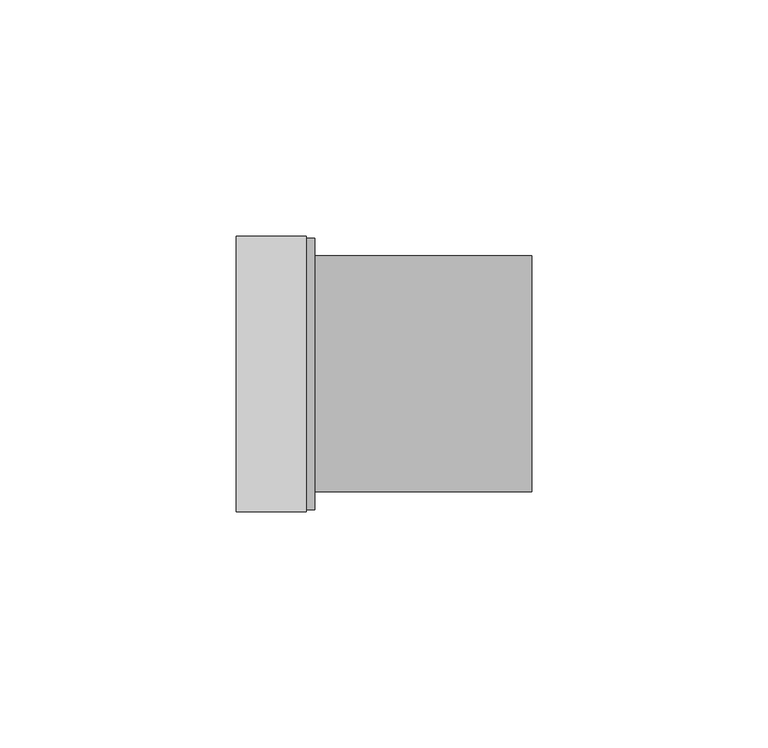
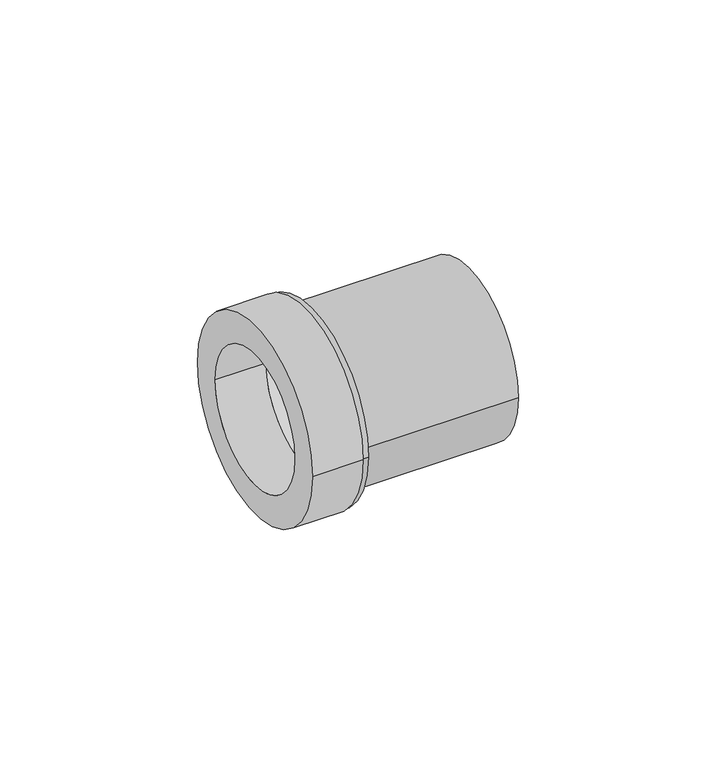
"""IFC4 building model written with IfcOpenShell, lengths in millimetres: pipe fitting geometry, UN_PIF_PP insert reducer_SH_PipeLife : Black, var. DN/OD (max. ø125, nested)."""

from ifc_helpers import new_model, si_unit, point, frame, origin, origin_2d, place, context, project, spatial, polyline, circle_curve, trimmed, segment, composite_curve, outline, extrude, source, transform, mapped, element, save
from ifc_brep_helpers import plane_surface, cylinder_surface, revolved_surface, advanced_brep


def pipe_fitting_761963bc(model_context):
    return source(origin(), model_context, "Body", "SolidModel", [
        extrude(outline(composite_curve([segment(trimmed(circle_curve(origin_2d(), 29.15), [point((-29.15, 0.0))], [point((29.15, 0.0))], False, "CARTESIAN"), True, "CONTINUOUS"), segment(trimmed(circle_curve(origin_2d(), 29.15), [point((29.15, 0.0))], [point((-29.15, 0.0))], False, "CARTESIAN"), True, "CONTINUOUS")], self_intersect=False), holes=[composite_curve([segment(trimmed(circle_curve(origin_2d(), 20.15), [point((-20.15, 0.0))], [point((20.15, 0.0))], True, "CARTESIAN"), True, "CONTINUOUS"), segment(trimmed(circle_curve(origin_2d(), 20.15), [point((20.15, 0.0))], [point((-20.15, 0.0))], True, "CARTESIAN"), True, "CONTINUOUS")], self_intersect=False)]), frame((-16.6, 0.0, 0.0), z_axis=(1.0, 0.0, 0.0), x_axis=(0.0, 1.0, 0.0)), (0.0, 0.0, 1.0), 14.8),
        advanced_brep(
        [(0.0, -28.75, 0.0), (0.0, 28.75, 0.0), (0.0, 25.0, 0.0), (0.0, -25.0, 0.0), (-1.8, -28.75, 0.0), (-1.8, 28.75, 0.0), (-1.8, -20.15, 0.0), (-1.8, 20.15, 0.0), (46.0, -25.0, 0.0), (46.0, 25.0, 0.0), (46.0, 0.0, 0.0), (20.5, -20.15, 0.0), (20.5, 20.15, 0.0)],
        [
            (0, 1, circle_curve(frame((0.0, 0.0, 0.0), z_axis=(1.0, 0.0, 0.0), x_axis=(0.0, 1.0, 0.0)), 28.75)),
            (1, 2),
            (2, 3, circle_curve(frame((0.0, 0.0, 0.0), z_axis=(-1.0, 0.0, 0.0), x_axis=(0.0, 1.0, 0.0)), 25.0)),
            (3, 0),
            (1, 0, circle_curve(frame((0.0, 0.0, 0.0), z_axis=(1.0, 0.0, 0.0), x_axis=(0.0, 1.0, 0.0)), 28.75)),
            (3, 2, circle_curve(frame((0.0, 0.0, 0.0), z_axis=(-1.0, 0.0, 0.0), x_axis=(0.0, 1.0, 0.0)), 25.0)),
            (0, 4),
            (4, 5, circle_curve(frame((-1.8, 0.0, 0.0), z_axis=(1.0, 0.0, 0.0), x_axis=(0.0, 1.0, 0.0)), 28.75)),
            (5, 1),
            (5, 4, circle_curve(frame((-1.8, 0.0, 0.0), z_axis=(1.0, 0.0, 0.0), x_axis=(0.0, 1.0, 0.0)), 28.75)),
            (4, 6),
            (6, 7, circle_curve(frame((-1.8, 0.0, 0.0), z_axis=(1.0, 0.0, 0.0), x_axis=(0.0, 1.0, 0.0)), 20.15)),
            (7, 5),
            (7, 6, circle_curve(frame((-1.8, 0.0, 0.0), z_axis=(1.0, 0.0, 0.0), x_axis=(0.0, 1.0, 0.0)), 20.15)),
            (8, 9, circle_curve(frame((46.0, 0.0, 0.0), z_axis=(1.0, 0.0, 0.0), x_axis=(0.0, 1.0, 0.0)), 25.0)),
            (9, 10),
            (10, 8),
            (9, 8, circle_curve(frame((46.0, 0.0, 0.0), z_axis=(1.0, 0.0, 0.0), x_axis=(0.0, 1.0, 0.0)), 25.0)),
            (2, 9),
            (8, 3),
            (11, 12, circle_curve(frame((20.5, 0.0, 0.0), z_axis=(-1.0, 0.0, 0.0), x_axis=(0.0, 1.0, 0.0)), 20.15)),
            (12, 11, circle_curve(frame((20.5, 0.0, 0.0), z_axis=(-1.0, 0.0, 0.0), x_axis=(0.0, 1.0, 0.0)), 20.15)),
            (12, 7),
            (6, 11),
        ],
        [
            plane_surface(frame((0.0, 0.0, 0.0), z_axis=(1.0, 0.0, 0.0), x_axis=(0.0, 1.0, 0.0))),
            cylinder_surface(frame((46.0, 0.0, 0.0), z_axis=(-1.0, 0.0, 0.0), x_axis=(0.0, 1.0, 0.0)), 28.75),
            plane_surface(frame((-1.8, 0.0, 0.0), z_axis=(-1.0, 0.0, 0.0), x_axis=(0.0, 1.0, 0.0))),
            plane_surface(frame((46.0, 0.0, 0.0), z_axis=(1.0, 0.0, 0.0), x_axis=(0.0, 1.0, 0.0))),
            cylinder_surface(frame((46.0, 0.0, 0.0), z_axis=(-1.0, 0.0, 0.0), x_axis=(0.0, 1.0, 0.0)), 25.0),
            plane_surface(frame((20.5, 20.15, 0.0), z_axis=(-1.0, 0.0, 0.0), x_axis=(0.0, 0.0, 1.0))),
            revolved_surface(polyline([(20.5, 20.15, 0.0), (-1.8000000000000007, 20.15, 0.0)]), (-16.6, 0.0, 0.0), (1.0, 0.0, 0.0)),
        ],
        [
            (0, [[1, 2, 3, 4]]),
            (0, [[-2, 5, -4, 6]]),
            (1, [[-1, 7, 8, 9]]),
            (1, [[-5, -9, 10, -7]]),
            (2, [[-8, 11, 12, 13]]),
            (2, [[-10, -13, 14, -11]]),
            (3, [[15, 16, 17]]),
            (3, [[-16, 18, -17]]),
            (4, [[-3, 19, -15, 20]]),
            (4, [[-6, -20, -18, -19]]),
            (5, [[21, 22]]),
            (6, [[-22, 23, -12, 24]]),
            (6, [[-21, -24, -14, -23]]),
        ],
    ),
    ])


if __name__ == "__main__":
    model = new_model("IFC4")
    model_context = context("Model", 3, world=origin())
    ifc_project = project(units=[si_unit("LENGTHUNIT", "METRE", prefix="MILLI")], contexts=[model_context])
    site = spatial("IfcSite", under=ifc_project)
    building = spatial("IfcBuilding", under=site)
    placement = place(None, origin())
    pipe_fitting_shape = pipe_fitting_761963bc(model_context)
    element("IfcPipeFitting", 1, ObjectType="UN_PIF_PP insert reducer_SH_PipeLife : Black, var. DN/OD (max. ø125, nested)", at=placement, inside=building, context=model_context, shape_type="MappedRepresentation", body=[
        mapped(pipe_fitting_shape, transform((0.0, 0.0, 0.0), x_axis=(1.0, 0.0, 0.0), y_axis=(0.0, 1.0, 0.0), z_axis=(0.0, 0.0, 1.0))),
    ])
    save(model, "model.ifc")
